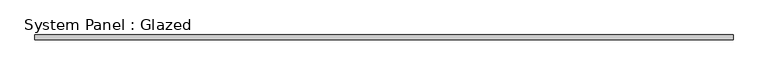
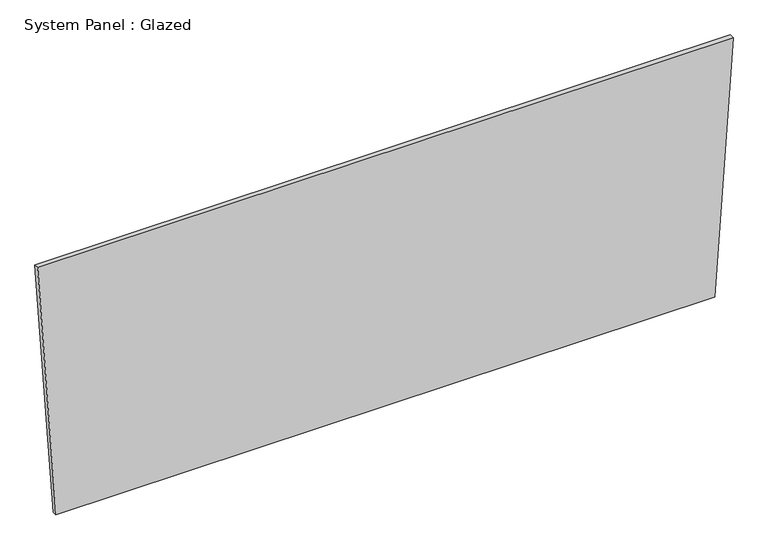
"""IFC4 building model written with IfcOpenShell, lengths in millimetres: plate geometry, System Panel : Glazed."""

from ifc_helpers import new_model, si_unit, frame, origin, place, context, project, spatial, polyline, outline, extrude, source, transform, mapped, element, save


def system_panel_glazed_e2cbaf5e(model_context):
    return source(origin(), model_context, "Body", "SweptSolid", [
        extrude(outline(polyline([(0.0, -1790.6063981), (0.0, 1790.6063981), (1456.932163, 1890.4747616), (1456.932163, -1890.4747616), (0.0, -1790.6063981)])), frame((0.0, -44.45, 0.0), z_axis=(0.0, 1.0, 0.0), x_axis=(0.0, 0.0, 1.0)), (0.0, 0.0, 1.0), 25.4),
    ])


if __name__ == "__main__":
    model = new_model("IFC4")
    model_context = context("Model", 3, world=origin())
    ifc_project = project(units=[si_unit("LENGTHUNIT", "METRE", prefix="MILLI")], contexts=[model_context])
    site = spatial("IfcSite", under=ifc_project)
    building = spatial("IfcBuilding", under=site)
    placement = place(None, origin())
    system_panel_glazed_shape = system_panel_glazed_e2cbaf5e(model_context)
    element("IfcPlate", 1, ObjectType="System Panel : Glazed", at=placement, inside=building, context=model_context, shape_type="MappedRepresentation", body=[
        mapped(system_panel_glazed_shape, transform((0.0, 0.0, 0.0), x_axis=(1.0, 0.0, 0.0), y_axis=(0.0, 1.0, 0.0), z_axis=(0.0, 0.0, 1.0))),
    ])
    save(model, "model.ifc")
